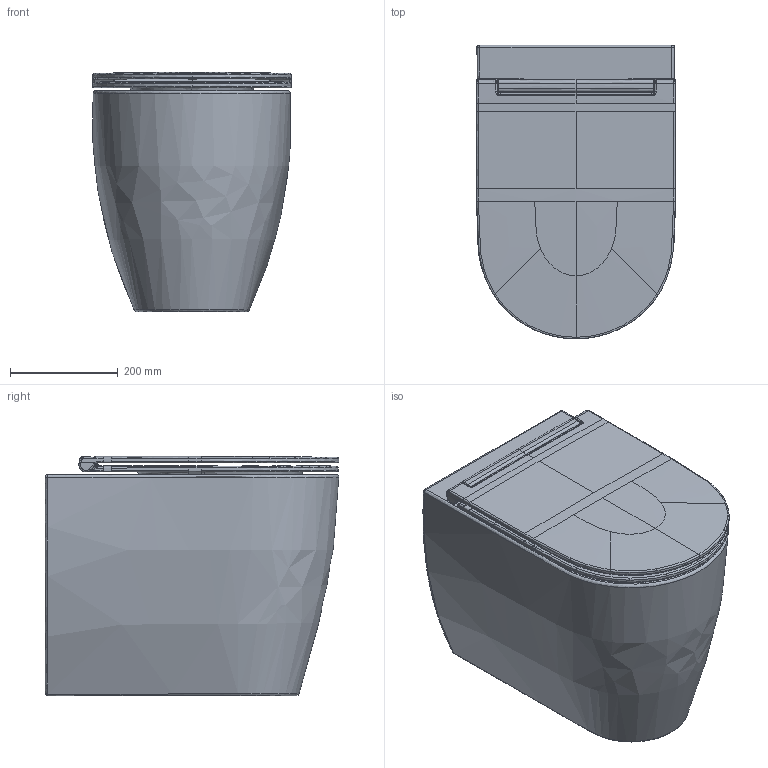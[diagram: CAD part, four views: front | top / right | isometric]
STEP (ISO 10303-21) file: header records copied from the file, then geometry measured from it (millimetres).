
FILE_DESCRIPTION(/* description */ (''),/* implementation_level */ '2;1');
FILE_NAME(/* name */ 'WCATER~2',/* time_stamp */ '2023-10-31T10:49:37+01:00',/* author */ (''),/* organization */ (''),/* preprocessor_version */ 'ST-DEVELOPER v16.5',/* originating_system */ '',/* authorisation */ '');
FILE_SCHEMA (('CONFIG_CONTROL_DESIGN'));
Length unit declared in the file: millimetre
Products named in the file (1): Document
Bounding box: 368.02 x 544.9 x 443.98 mm (x, y, z)
Volume: 55581378.4 mm3; surface area: 1504013.6 mm2
Topology: 1 solids, 3 shells, 322 faces, 816 edges, 491 vertices
Faces by surface type: bspline 287, plane 23, cylinder 12
Entity records: 36239 total; most frequent: CARTESIAN_POINT 31313, ORIENTED_EDGE 1554, EDGE_CURVE 814, B_SPLINE_CURVE_WITH_KNOTS 651, VERTEX_POINT 491, EDGE_LOOP 331, ADVANCED_FACE 322, FACE_OUTER_BOUND 322
